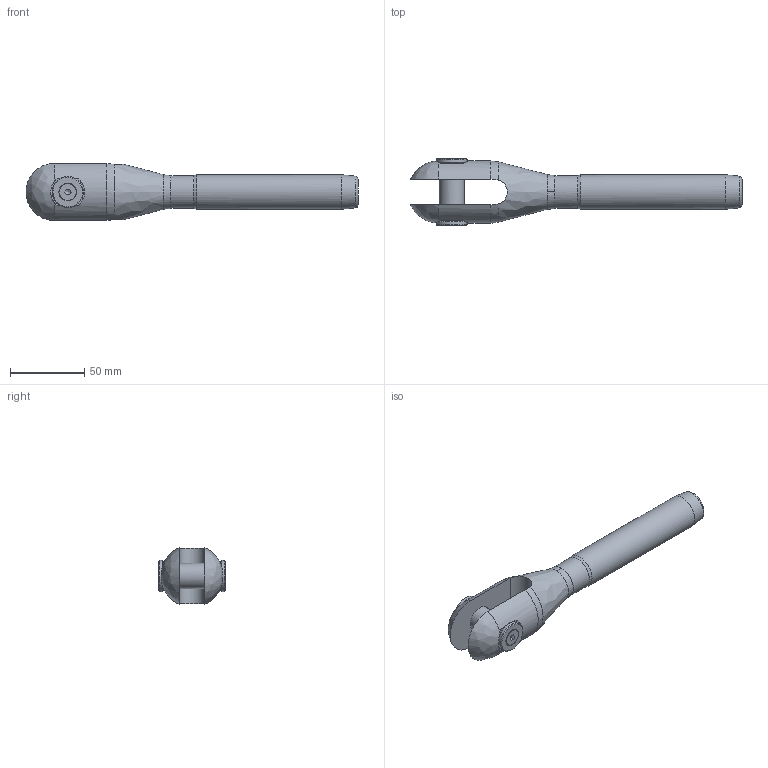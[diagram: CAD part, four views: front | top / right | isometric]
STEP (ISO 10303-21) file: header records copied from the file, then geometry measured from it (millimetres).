
FILE_DESCRIPTION(/* description */ (''),/* implementation_level */ '2;1');
FILE_NAME(/* name */ 'MAC 12_42CrMo4',/* time_stamp */ '2023-05-23T16:55:14+02:00',/* author */ (''),/* organization */ (''),/* preprocessor_version */ 'ST-DEVELOPER v16.5',/* originating_system */ 'Rhino 7.22',/* authorisation */ '');
FILE_SCHEMA (('CONFIG_CONTROL_DESIGN'));
Length unit declared in the file: millimetre
Products named in the file (1): Document
Bounding box: 224.19 x 45.45 x 38.41 mm (x, y, z)
Volume: 119959.6 mm3; surface area: 29338.1 mm2
Topology: 6 solids, 6 shells, 75 faces, 210 edges, 145 vertices
Faces by surface type: plane 29, bspline 24, cylinder 22
Full cylindrical faces by diameter (mm): 4.917 x2, 6 x2, 6.5 x2, 11.34 x2, 17 x1, 18 x2, 21 x2, 22.2 x1, 23.3 x1
Entity records: 3106 total; most frequent: CARTESIAN_POINT 1759, ORIENTED_EDGE 412, EDGE_CURVE 206, VERTEX_POINT 145, EDGE_LOOP 85, B_SPLINE_CURVE_WITH_KNOTS 84, ADVANCED_FACE 75, FACE_OUTER_BOUND 75
